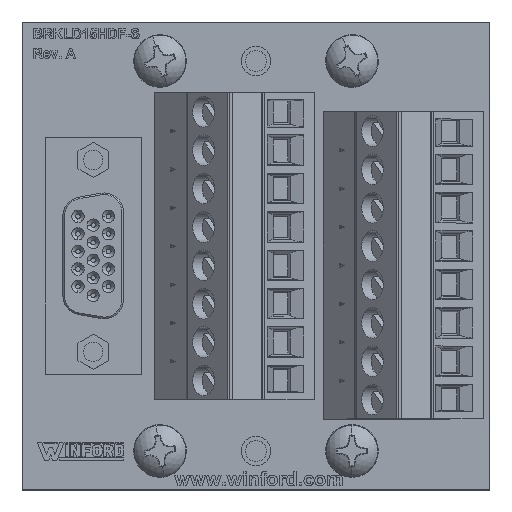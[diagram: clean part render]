
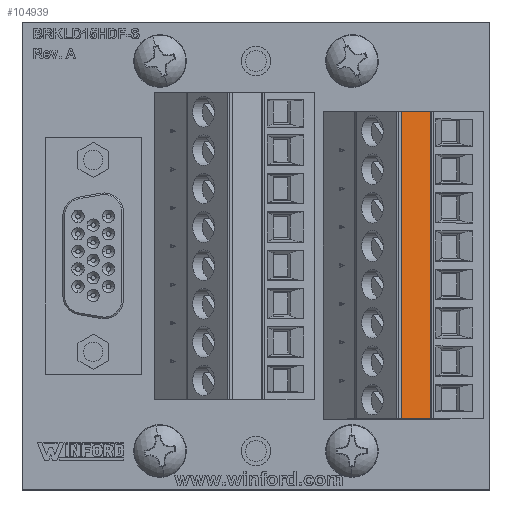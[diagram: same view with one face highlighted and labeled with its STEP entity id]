
A CAD part, top view. The second image highlights one B-rep face of the part: STEP entity #104939.
In plain terms, the highlighted planar face has unit normal (0.574, 0, 0.819) as drawn and (0.985, 0.174, 0) by its records, which use the part's own axes.
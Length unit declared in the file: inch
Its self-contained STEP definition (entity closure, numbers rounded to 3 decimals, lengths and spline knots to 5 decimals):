
#4594 = VECTOR ( 'NONE', #33401, 39.37008 ) ;
#6344 = VERTEX_POINT ( 'NONE', #102894 ) ;
#6907 = CARTESIAN_POINT ( 'NONE',  ( 0.37795, 0.32283, -1.5748 ) ) ;
#12618 = ORIENTED_EDGE ( 'NONE', *, *, #108388, .T. ) ;
#17014 = DIRECTION ( 'NONE',  ( -0.174, 0.985, 0. ) ) ;
#24601 = LINE ( 'NONE', #6907, #74492 ) ;
#25776 = ORIENTED_EDGE ( 'NONE', *, *, #65243, .F. ) ;
#25988 = ORIENTED_EDGE ( 'NONE', *, *, #110552, .T. ) ;
#33401 = DIRECTION ( 'NONE',  ( -0.174, 0.985, 0. ) ) ;
#34585 = LINE ( 'NONE', #53278, #107004 ) ;
#50740 = EDGE_CURVE ( 'NONE', #87272, #6344, #24601, .T. ) ;
#52018 = CARTESIAN_POINT ( 'NONE',  ( 0.37795, 0.32283, 0. ) ) ;
#52706 = PLANE ( 'NONE',  #107989 ) ;
#53278 = CARTESIAN_POINT ( 'NONE',  ( 0.37795, 0.32283, -1.08268 ) ) ;
#61278 = VECTOR ( 'NONE', #90974, 39.37008 ) ;
#61855 = DIRECTION ( 'NONE',  ( 0.985, 0.174, 0. ) ) ;
#65243 = EDGE_CURVE ( 'NONE', #85019, #109523, #115489, .T. ) ;
#70261 = CARTESIAN_POINT ( 'NONE',  ( 0.34565, 0.50604, -1.08268 ) ) ;
#70537 = DIRECTION ( 'NONE',  ( -0.174, 0.985, 0. ) ) ;
#70624 = CARTESIAN_POINT ( 'NONE',  ( 0.37795, 0.32283, -1.5748 ) ) ;
#73784 = FACE_OUTER_BOUND ( 'NONE', #89262, .T. ) ;
#74492 = VECTOR ( 'NONE', #70537, 39.37008 ) ;
#81137 = DIRECTION ( 'NONE',  ( 0., 0., -1. ) ) ;
#83350 = CARTESIAN_POINT ( 'NONE',  ( 0.34565, 0.50604, 0. ) ) ;
#85019 = VERTEX_POINT ( 'NONE', #95277 ) ;
#87272 = VERTEX_POINT ( 'NONE', #70624 ) ;
#89262 = EDGE_LOOP ( 'NONE', ( #25988, #25776, #12618, #111953 ) ) ;
#90974 = DIRECTION ( 'NONE',  ( 0., 0., 1. ) ) ;
#95277 = CARTESIAN_POINT ( 'NONE',  ( 0.37795, 0.32283, 0. ) ) ;
#99642 = LINE ( 'NONE', #100883, #61278 ) ;
#100883 = CARTESIAN_POINT ( 'NONE',  ( 0.34565, 0.50604, -1.08268 ) ) ;
#102894 = CARTESIAN_POINT ( 'NONE',  ( 0.34565, 0.50604, -1.5748 ) ) ;
#104939 = ADVANCED_FACE ( 'NONE', ( #73784 ), #52706, .T. ) ;
#107004 = VECTOR ( 'NONE', #81137, 39.37008 ) ;
#107989 = AXIS2_PLACEMENT_3D ( 'NONE', #70261, #61855, #17014 ) ;
#108388 = EDGE_CURVE ( 'NONE', #85019, #87272, #34585, .T. ) ;
#109523 = VERTEX_POINT ( 'NONE', #83350 ) ;
#110552 = EDGE_CURVE ( 'NONE', #6344, #109523, #99642, .T. ) ;
#111953 = ORIENTED_EDGE ( 'NONE', *, *, #50740, .T. ) ;
#115489 = LINE ( 'NONE', #52018, #4594 ) ;
